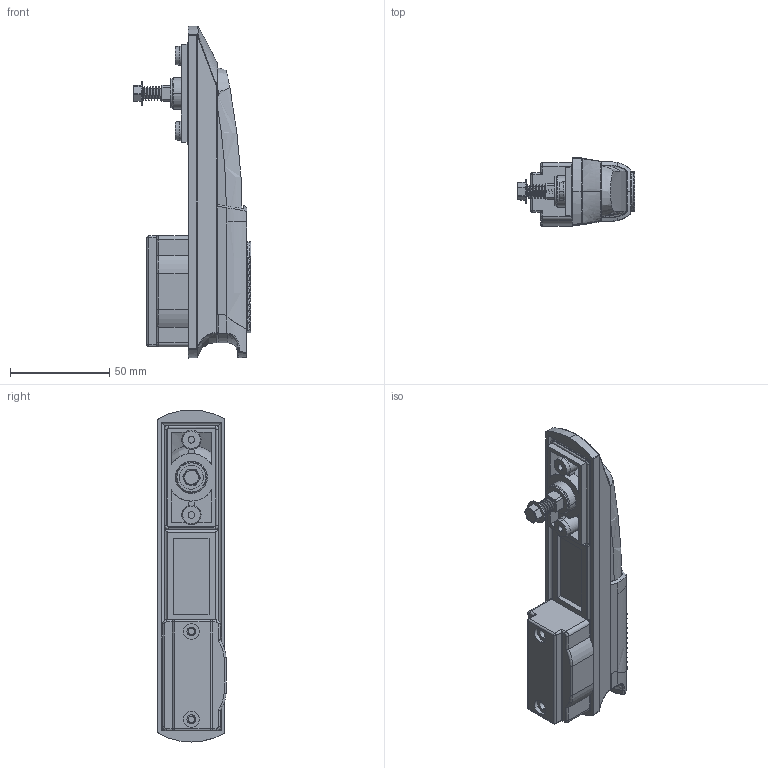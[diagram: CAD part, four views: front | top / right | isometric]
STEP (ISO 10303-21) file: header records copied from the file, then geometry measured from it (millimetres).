
FILE_DESCRIPTION (( 'STEP AP214' ), '1' );
FILE_NAME ('RS730.STEP', '2010-02-26T14:39:57', ( 'Techniczny' ), ( 'RST Roztocze' ), 'SwSTEP 2.0', 'SolidWorks 2010', '' );
FILE_SCHEMA (( 'AUTOMOTIVE_DESIGN' ));
Length unit declared in the file: millimetre
Products named in the file (12): 1B.RS300.02.02.00; 1B.RS300.01.05.00; 1B.RS100.01.04.00; 1B.RS100.01.03.00; 1B.RS730.02.01.00_Default; M6 x 22; 1B.RS730.01.06.01_Default; O-RING 12x2; 1B.RS700.01.02.00_Default; O-RING 42 x 1,5; 1B.RS730.01.01.00_Default; RS730
Assembly tree (12 placements, depth 2):
  RS730
    O-RING 42 x 1,5  x2
    1B.RS730.01.01.00_Default
    1B.RS100.01.04.00
    1B.RS730.02.01.00_Default
    1B.RS730.01.06.01_Default
    O-RING 12x2
    1B.RS300.01.05.00
    M6 x 22
    1B.RS700.01.02.00_Default
    1B.RS100.01.03.00
    1B.RS300.02.02.00
Bounding box: 59.3 x 34.39 x 167.64 mm (x, y, z)
Volume: 96416.3 mm3; surface area: 64332.6 mm2
Topology: 12 solids, 12 shells, 773 faces, 1956 edges, 1204 vertices
Faces by surface type: bspline 265, plane 230, cylinder 188, torus 40, cone 39, sphere 11
Entity records: 46202 total; most frequent: CARTESIAN_POINT 29625, ORIENTED_EDGE 3802, DIRECTION 2476, EDGE_CURVE 1901, VERTEX_POINT 1180, AXIS2_PLACEMENT_3D 884, EDGE_LOOP 793, ADVANCED_FACE 757
